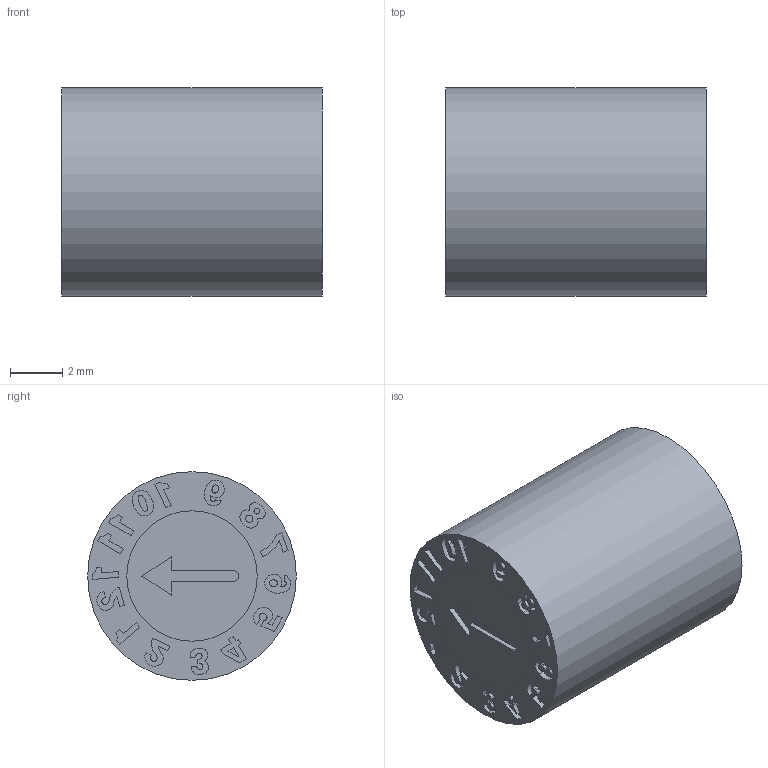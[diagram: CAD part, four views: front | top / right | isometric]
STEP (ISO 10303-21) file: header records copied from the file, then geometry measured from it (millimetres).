
FILE_DESCRIPTION( ( 'STEP AP203' ), ' ' );
FILE_NAME( 'p:/temp/worker_125/3512_3620/app_53_12017012412464160704747260eae72_000000_00_00_000000/format_0/UOM08.stp', '2017-01-24T11:46:42', ( '' ), ( '' ), ' ', 'PARTsolutions', ' ' );
FILE_SCHEMA( ( 'CONFIG_CONTROL_DESIGN' ) );
Length unit declared in the file: millimetre
Products named in the file (3): UOM08; _UOM081; _UOM082
Assembly tree (2 placements, depth 2):
  UOM08
    _UOM081
    _UOM082
Bounding box: 10 x 8 x 8 mm (x, y, z)
Volume: 418.5 mm3; surface area: 638.4 mm2
Topology: 2 solids, 2 shells, 198 faces, 498 edges, 332 vertices
Faces by surface type: plane 118, cylinder 80
Full cylindrical faces by diameter (mm): 0.222 x1, 0.273 x1, 2.28 x2, 4.56 x2, 5 x4, 8 x1
Entity records: 6019 total; most frequent: DIRECTION 1049, CARTESIAN_POINT 1020, ORIENTED_EDGE 974, EDGE_CURVE 487, AXIS2_PLACEMENT_3D 361, VERTEX_POINT 332, LINE 327, VECTOR 327
